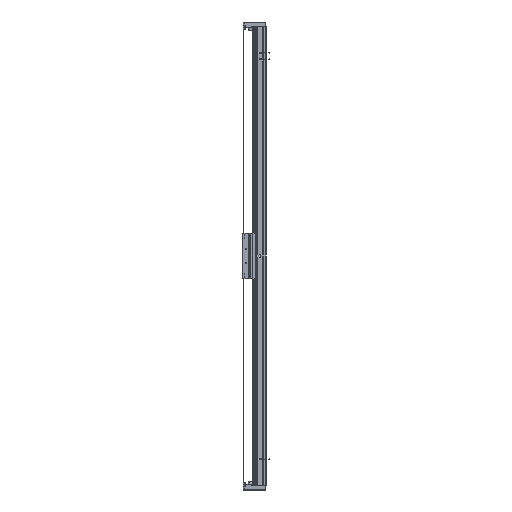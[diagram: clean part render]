
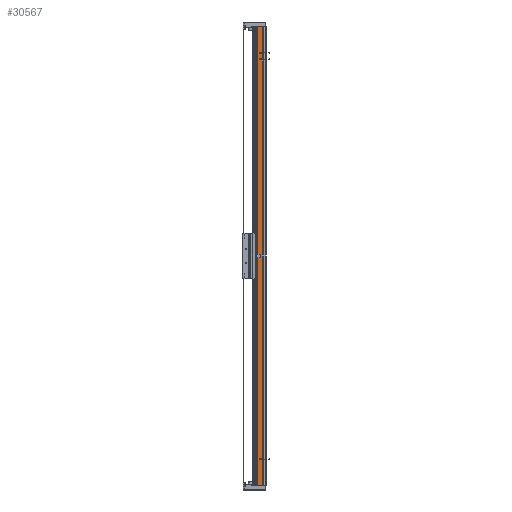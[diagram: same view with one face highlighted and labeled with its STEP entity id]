
A CAD part, left-side view. The second image highlights one B-rep face of the part: STEP entity #30567.
In plain terms, the highlighted planar face has unit normal (-1, 0, 0).
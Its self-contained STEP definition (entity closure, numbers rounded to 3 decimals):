
#1858 = EDGE_CURVE ( 'NONE', #64679, #80556, #41214, .T. ) ;
#5052 = DIRECTION ( 'NONE',  ( 0., 0., -1. ) ) ;
#6082 = VERTEX_POINT ( 'NONE', #75113 ) ;
#7960 = DIRECTION ( 'NONE',  ( 0., -1., 0. ) ) ;
#16746 = DIRECTION ( 'NONE',  ( 1., 0., 0. ) ) ;
#22358 = CARTESIAN_POINT ( 'NONE',  ( -82.5, 14.45, 960. ) ) ;
#25970 = FACE_OUTER_BOUND ( 'NONE', #29677, .T. ) ;
#29677 = EDGE_LOOP ( 'NONE', ( #39883, #49058, #60348, #101944 ) ) ;
#30567 = ADVANCED_FACE ( 'NONE', ( #25970 ), #105141, .F. ) ;
#33712 = CARTESIAN_POINT ( 'NONE',  ( -82.5, 14.45, -960. ) ) ;
#39883 = ORIENTED_EDGE ( 'NONE', *, *, #73365, .T. ) ;
#39975 = VECTOR ( 'NONE', #7960, 1000. ) ;
#40870 = LINE ( 'NONE', #22358, #60450 ) ;
#41214 = LINE ( 'NONE', #76467, #98205 ) ;
#43313 = CARTESIAN_POINT ( 'NONE',  ( -82.5, 36.95, 960. ) ) ;
#49058 = ORIENTED_EDGE ( 'NONE', *, *, #84281, .F. ) ;
#60348 = ORIENTED_EDGE ( 'NONE', *, *, #70181, .F. ) ;
#60450 = VECTOR ( 'NONE', #5052, 1000. ) ;
#60538 = LINE ( 'NONE', #95799, #39975 ) ;
#64679 = VERTEX_POINT ( 'NONE', #100247 ) ;
#65674 = CARTESIAN_POINT ( 'NONE',  ( -82.5, 36.95, -960. ) ) ;
#70181 = EDGE_CURVE ( 'NONE', #64679, #6082, #114369, .T. ) ;
#70446 = DIRECTION ( 'NONE',  ( 0., 1., 0. ) ) ;
#71030 = CARTESIAN_POINT ( 'NONE',  ( -82.5, 36.95, 960. ) ) ;
#73365 = EDGE_CURVE ( 'NONE', #80556, #80012, #60538, .T. ) ;
#75113 = CARTESIAN_POINT ( 'NONE',  ( -82.5, 14.45, 960. ) ) ;
#76467 = CARTESIAN_POINT ( 'NONE',  ( -82.5, 36.95, 960. ) ) ;
#79583 = VECTOR ( 'NONE', #113801, 1000. ) ;
#80012 = VERTEX_POINT ( 'NONE', #33712 ) ;
#80556 = VERTEX_POINT ( 'NONE', #65674 ) ;
#84281 = EDGE_CURVE ( 'NONE', #6082, #80012, #40870, .T. ) ;
#94143 = AXIS2_PLACEMENT_3D ( 'NONE', #71030, #16746, #70446 ) ;
#95799 = CARTESIAN_POINT ( 'NONE',  ( -82.5, 36.95, -960. ) ) ;
#98205 = VECTOR ( 'NONE', #111689, 1000. ) ;
#100247 = CARTESIAN_POINT ( 'NONE',  ( -82.5, 36.95, 960. ) ) ;
#101944 = ORIENTED_EDGE ( 'NONE', *, *, #1858, .T. ) ;
#105141 = PLANE ( 'NONE',  #94143 ) ;
#111689 = DIRECTION ( 'NONE',  ( 0., 0., -1. ) ) ;
#113801 = DIRECTION ( 'NONE',  ( 0., -1., 0. ) ) ;
#114369 = LINE ( 'NONE', #43313, #79583 ) ;
